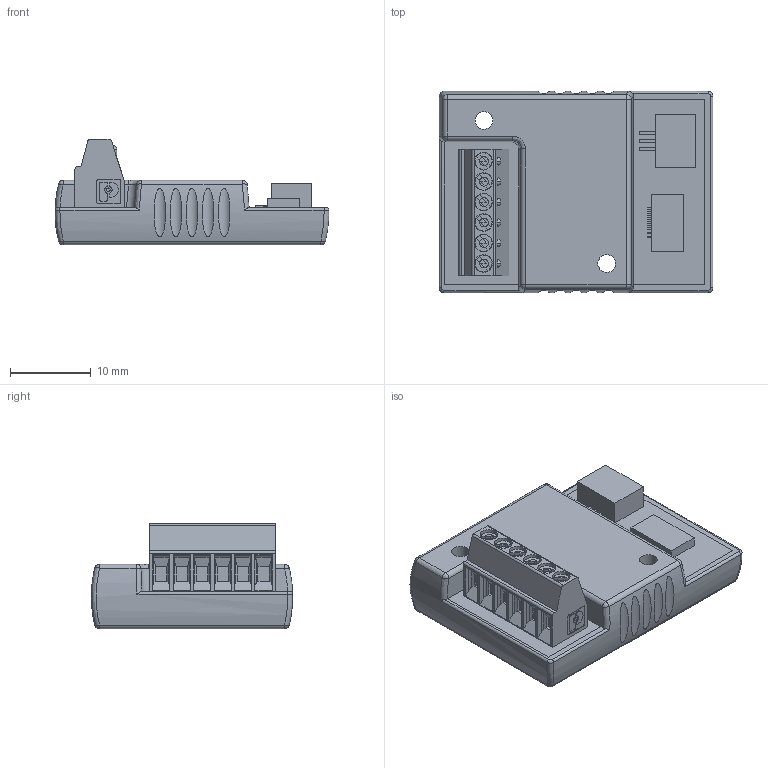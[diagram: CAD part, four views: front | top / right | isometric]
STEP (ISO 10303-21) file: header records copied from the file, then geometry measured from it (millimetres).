
FILE_DESCRIPTION(/* description */ (''),/* implementation_level */ '2;1');
FILE_NAME(/* name */ 'SC1801F.stp',/* time_stamp */ '2012-07-13T13:54:02+02:00',/* author */ ('DR. FRITZ FAULHABER GmbH & Co. KG'),/* organization */ ('DR. FRITZ FAULHABER GmbH & Co. KG'),/* preprocessor_version */ 'ST-DEVELOPER v11',/* originating_system */ 'SIEMENS PLM Software NX 7.5',/* authorisation */ '');
FILE_SCHEMA (('AUTOMOTIVE_DESIGN { 1 0 10303 214 1 1 1 1 }'));
Length unit declared in the file: millimetre
Products named in the file (1): SC1801x
Bounding box: 34 x 25 x 13.1 mm (x, y, z)
Volume: 5828.4 mm3; surface area: 3206.5 mm2
Topology: 1 solids, 1 shells, 440 faces, 1057 edges, 656 vertices
Faces by surface type: plane 287, cylinder 116, sphere 21, bspline 12, cone 4
Full cylindrical faces by diameter (mm): 1.5 x1, 2 x4, 2.2 x2
Entity records: 13473 total; most frequent: CARTESIAN_POINT 3194, DIRECTION 2159, ORIENTED_EDGE 2072, EDGE_CURVE 1036, AXIS2_PLACEMENT_3D 736, LINE 687, VECTOR 687, VERTEX_POINT 655
